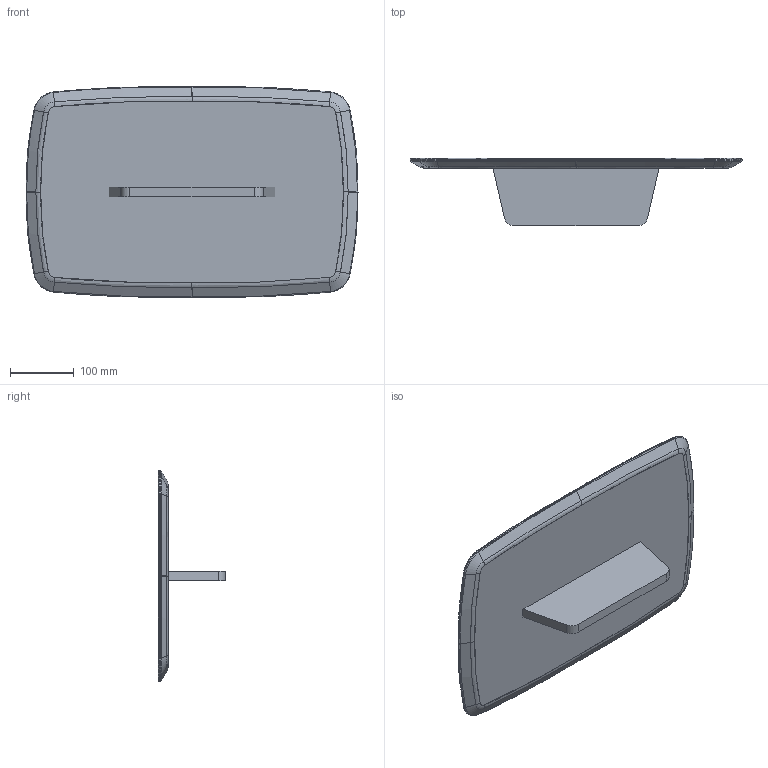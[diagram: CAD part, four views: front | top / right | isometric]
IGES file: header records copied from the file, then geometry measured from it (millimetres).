
Start section: SolidWorks IGES file using analytic representation for surfaces
Global section: file name: \\Logicserver\datos\01-VICCARBE\PRODUCTOS\53-SISTEMA\04-MODELADOS (PLANOS)\WEB\viccarbe-sistema-3D\Modulos\Mesa quilla.IGS; native system: SolidWorks 2013; preprocessor: SolidWorks 2013; author: bdisenyo; date: 170120.123731; units: millimetre
Bounding box: 520 x 105 x 330.01 mm (x, y, z)
Surface area: 381825.1 mm2 (no closed solid volume)
Topology: 0 solids, 0 shells, 69 faces, 543 edges, 543 vertices
Faces by surface type: bspline 59, revolution 10
